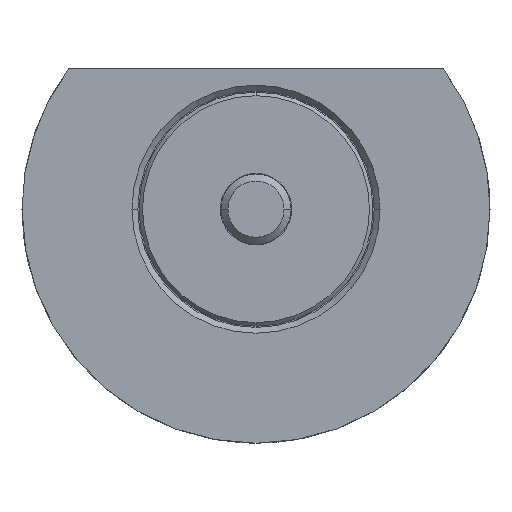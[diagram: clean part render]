
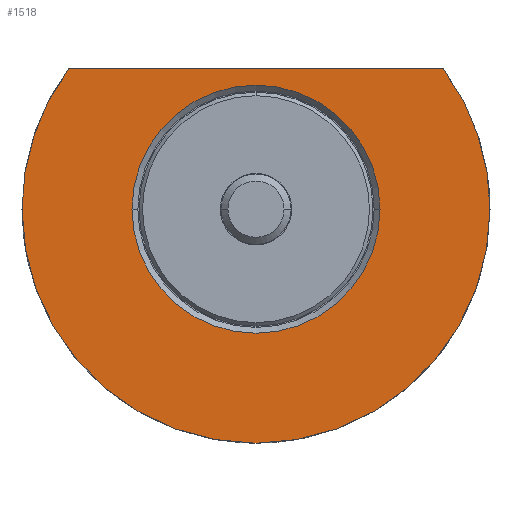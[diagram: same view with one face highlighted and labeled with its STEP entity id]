
A CAD part, front view. The second image highlights one B-rep face of the part: STEP entity #1518.
In plain terms, the highlighted planar face has unit normal (0, -1, 0).
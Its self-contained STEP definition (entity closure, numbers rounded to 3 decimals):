
#83 = VERTEX_POINT ( 'NONE', #2638 ) ;
#84 = EDGE_CURVE ( 'NONE', #1185, #83, #2096, .T. ) ;
#162 = FACE_BOUND ( 'NONE', #2100, .T. ) ;
#272 = VERTEX_POINT ( 'NONE', #2461 ) ;
#278 = ORIENTED_EDGE ( 'NONE', *, *, #1545, .T. ) ;
#306 = AXIS2_PLACEMENT_3D ( 'NONE', #591, #1812, #386 ) ;
#332 = DIRECTION ( 'NONE',  ( 0., 1., 0. ) ) ;
#384 = VERTEX_POINT ( 'NONE', #1118 ) ;
#386 = DIRECTION ( 'NONE',  ( -1., 0., 0. ) ) ;
#591 = CARTESIAN_POINT ( 'NONE',  ( 0., -10., 0. ) ) ;
#724 = EDGE_CURVE ( 'NONE', #2652, #2410, #1514, .T. ) ;
#764 = ORIENTED_EDGE ( 'NONE', *, *, #1703, .F. ) ;
#788 = DIRECTION ( 'NONE',  ( 0., 1., 0. ) ) ;
#849 = DIRECTION ( 'NONE',  ( 0., 1., 0. ) ) ;
#894 = CARTESIAN_POINT ( 'NONE',  ( 0., -10., 0. ) ) ;
#985 = DIRECTION ( 'NONE',  ( 0., -1., 0. ) ) ;
#992 = DIRECTION ( 'NONE',  ( -1., 0., 0. ) ) ;
#1039 = ORIENTED_EDGE ( 'NONE', *, *, #84, .F. ) ;
#1048 = AXIS2_PLACEMENT_3D ( 'NONE', #2057, #985, #1838 ) ;
#1074 = DIRECTION ( 'NONE',  ( -1., 0., 0. ) ) ;
#1094 = AXIS2_PLACEMENT_3D ( 'NONE', #2426, #332, #992 ) ;
#1118 = CARTESIAN_POINT ( 'NONE',  ( -10.6, -10., 0. ) ) ;
#1185 = VERTEX_POINT ( 'NONE', #2556 ) ;
#1239 = EDGE_CURVE ( 'NONE', #2652, #1185, #2552, .T. ) ;
#1255 = ORIENTED_EDGE ( 'NONE', *, *, #1801, .T. ) ;
#1304 = AXIS2_PLACEMENT_3D ( 'NONE', #894, #2356, #1074 ) ;
#1319 = AXIS2_PLACEMENT_3D ( 'NONE', #1588, #788, #1796 ) ;
#1462 = DIRECTION ( 'NONE',  ( -1., 0., 0. ) ) ;
#1480 = CIRCLE ( 'NONE', #306, 10.6 ) ;
#1514 = LINE ( 'NONE', #2336, #1994 ) ;
#1518 = ADVANCED_FACE ( 'NONE', ( #162, #2431 ), #2654, .T. ) ;
#1529 = DIRECTION ( 'NONE',  ( -1., 0., 0. ) ) ;
#1545 = EDGE_CURVE ( 'NONE', #272, #384, #1480, .T. ) ;
#1588 = CARTESIAN_POINT ( 'NONE',  ( 0., -10., 0. ) ) ;
#1618 = ORIENTED_EDGE ( 'NONE', *, *, #724, .T. ) ;
#1703 = EDGE_CURVE ( 'NONE', #83, #2410, #1953, .T. ) ;
#1745 = CARTESIAN_POINT ( 'NONE',  ( 0., -10., 0. ) ) ;
#1796 = DIRECTION ( 'NONE',  ( -1., 0., 0. ) ) ;
#1801 = EDGE_CURVE ( 'NONE', #384, #272, #1909, .T. ) ;
#1811 = ORIENTED_EDGE ( 'NONE', *, *, #1239, .F. ) ;
#1812 = DIRECTION ( 'NONE',  ( 0., 1., 0. ) ) ;
#1838 = DIRECTION ( 'NONE',  ( 1., 0., 0. ) ) ;
#1909 = CIRCLE ( 'NONE', #1094, 10.6 ) ;
#1953 = CIRCLE ( 'NONE', #2213, 20. ) ;
#1969 = CARTESIAN_POINT ( 'NONE',  ( -16.001, -10., 11.999 ) ) ;
#1994 = VECTOR ( 'NONE', #1529, 1000. ) ;
#2057 = CARTESIAN_POINT ( 'NONE',  ( -10.6, -10., 0. ) ) ;
#2096 = CIRCLE ( 'NONE', #1319, 20. ) ;
#2100 = EDGE_LOOP ( 'NONE', ( #278, #1255 ) ) ;
#2139 = EDGE_LOOP ( 'NONE', ( #1811, #1618, #764, #1039 ) ) ;
#2213 = AXIS2_PLACEMENT_3D ( 'NONE', #1745, #849, #1462 ) ;
#2336 = CARTESIAN_POINT ( 'NONE',  ( -10.6, -10., 11.999 ) ) ;
#2356 = DIRECTION ( 'NONE',  ( 0., 1., 0. ) ) ;
#2410 = VERTEX_POINT ( 'NONE', #1969 ) ;
#2426 = CARTESIAN_POINT ( 'NONE',  ( 0., -10., 0. ) ) ;
#2431 = FACE_OUTER_BOUND ( 'NONE', #2139, .T. ) ;
#2461 = CARTESIAN_POINT ( 'NONE',  ( 10.6, -10., 0. ) ) ;
#2552 = CIRCLE ( 'NONE', #1304, 20. ) ;
#2554 = CARTESIAN_POINT ( 'NONE',  ( 16.001, -10., 11.999 ) ) ;
#2556 = CARTESIAN_POINT ( 'NONE',  ( 20., -10., 0. ) ) ;
#2638 = CARTESIAN_POINT ( 'NONE',  ( -20., -10., 0. ) ) ;
#2652 = VERTEX_POINT ( 'NONE', #2554 ) ;
#2654 = PLANE ( 'NONE',  #1048 ) ;
